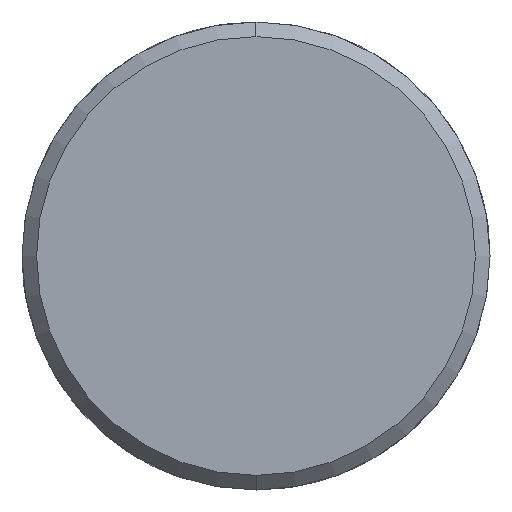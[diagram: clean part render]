
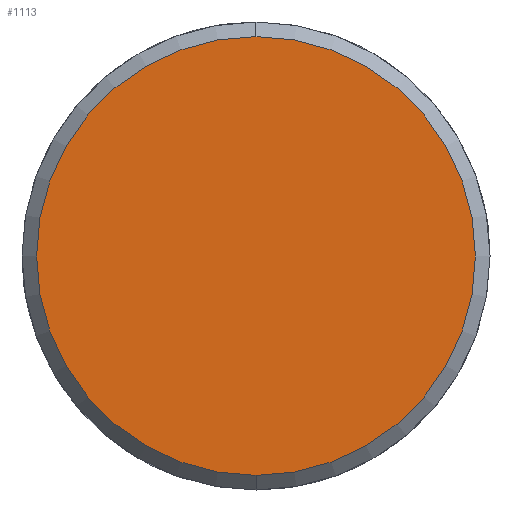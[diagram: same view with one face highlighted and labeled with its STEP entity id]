
A CAD part, left-side view. The second image highlights one B-rep face of the part: STEP entity #1113.
In plain terms, the highlighted planar face has unit normal (-1, 0, 0).
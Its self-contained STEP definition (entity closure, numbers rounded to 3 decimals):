
#1045=CARTESIAN_POINT('Vertex',(-6.,0.,-15.)) ;
#1048=CARTESIAN_POINT('Axis2P3D Location',(-6.,0.,0.)) ;
#1052=CARTESIAN_POINT('Vertex',(-6.,15.,0.)) ;
#1055=CARTESIAN_POINT('Axis2P3D Location',(-6.,0.,0.)) ;
#1059=CARTESIAN_POINT('Vertex',(-6.,0.,15.)) ;
#1081=CARTESIAN_POINT('Axis2P3D Location',(-6.,0.,0.)) ;
#1085=CARTESIAN_POINT('Vertex',(-6.,-15.,0.)) ;
#1088=CARTESIAN_POINT('Axis2P3D Location',(-6.,0.,0.)) ;
#1102=CARTESIAN_POINT('Axis2P3D Location',(-6.,0.,0.)) ;
#1049=DIRECTION('Axis2P3D Direction',(1.,0.,-0.)) ;
#1056=DIRECTION('Axis2P3D Direction',(1.,0.,-0.)) ;
#1082=DIRECTION('Axis2P3D Direction',(1.,0.,-0.)) ;
#1089=DIRECTION('Axis2P3D Direction',(1.,0.,-0.)) ;
#1103=DIRECTION('Axis2P3D Direction',(1.,0.,-0.)) ;
#1104=DIRECTION('Axis2P3D XDirection',(-0.,0.,-1.)) ;
#1050=AXIS2_PLACEMENT_3D('Circle Axis2P3D',#1048,#1049,$) ;
#1057=AXIS2_PLACEMENT_3D('Circle Axis2P3D',#1055,#1056,$) ;
#1083=AXIS2_PLACEMENT_3D('Circle Axis2P3D',#1081,#1082,$) ;
#1090=AXIS2_PLACEMENT_3D('Circle Axis2P3D',#1088,#1089,$) ;
#1105=AXIS2_PLACEMENT_3D('Plane Axis2P3D',#1102,#1103,#1104) ;
#1108=ORIENTED_EDGE('',*,*,#1054,.F.) ;
#1109=ORIENTED_EDGE('',*,*,#1092,.F.) ;
#1110=ORIENTED_EDGE('',*,*,#1087,.F.) ;
#1111=ORIENTED_EDGE('',*,*,#1061,.F.) ;
#1113=ADVANCED_FACE('351-20X46X100',(#1112),#1106,.F.) ;
#1051=CIRCLE('generated circle',#1050,15.) ;
#1058=CIRCLE('generated circle',#1057,15.) ;
#1084=CIRCLE('generated circle',#1083,15.) ;
#1091=CIRCLE('generated circle',#1090,15.) ;
#1054=EDGE_CURVE('',#1046,#1053,#1051,.T.) ;
#1061=EDGE_CURVE('',#1053,#1060,#1058,.T.) ;
#1087=EDGE_CURVE('',#1060,#1086,#1084,.T.) ;
#1092=EDGE_CURVE('',#1086,#1046,#1091,.T.) ;
#1107=EDGE_LOOP('',(#1108,#1109,#1110,#1111)) ;
#1112=FACE_OUTER_BOUND('',#1107,.T.) ;
#1106=PLANE('Plane',#1105) ;
#1046=VERTEX_POINT('',#1045) ;
#1053=VERTEX_POINT('',#1052) ;
#1060=VERTEX_POINT('',#1059) ;
#1086=VERTEX_POINT('',#1085) ;
